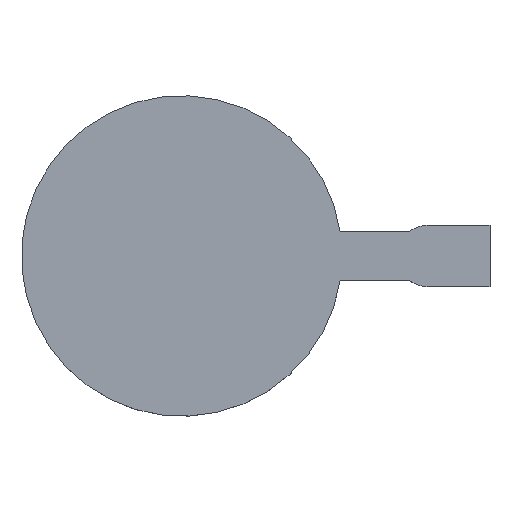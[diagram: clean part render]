
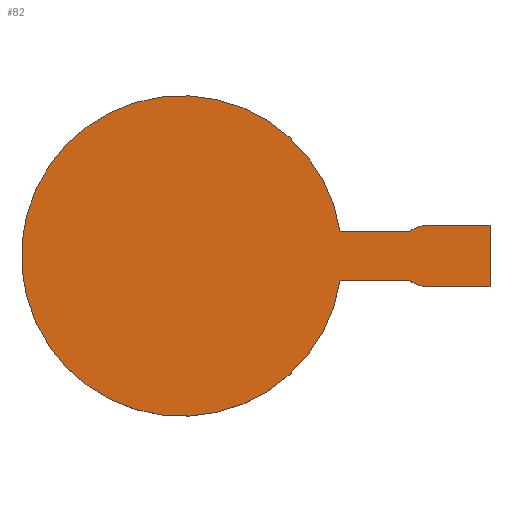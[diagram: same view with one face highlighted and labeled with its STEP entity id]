
A CAD part, top view. The second image highlights one B-rep face of the part: STEP entity #82.
In plain terms, the highlighted planar face has unit normal (0, 0, 1).
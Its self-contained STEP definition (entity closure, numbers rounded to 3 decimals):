
#82 = ADVANCED_FACE( '', ( #172 ), #173, .F. );
#172 = FACE_OUTER_BOUND( '', #267, .T. );
#173 = PLANE( '', #268 );
#267 = EDGE_LOOP( '', ( #433, #434, #435, #436, #437, #438, #439, #440 ) );
#268 = AXIS2_PLACEMENT_3D( '', #441, #442, #443 );
#433 = ORIENTED_EDGE( '', *, *, #537, .F. );
#434 = ORIENTED_EDGE( '', *, *, #554, .T. );
#435 = ORIENTED_EDGE( '', *, *, #532, .T. );
#436 = ORIENTED_EDGE( '', *, *, #516, .T. );
#437 = ORIENTED_EDGE( '', *, *, #549, .T. );
#438 = ORIENTED_EDGE( '', *, *, #567, .T. );
#439 = ORIENTED_EDGE( '', *, *, #572, .T. );
#440 = ORIENTED_EDGE( '', *, *, #528, .T. );
#441 = CARTESIAN_POINT( '', ( -125., 125., 2.5 ) );
#442 = DIRECTION( '', ( 0., 0., -1. ) );
#443 = DIRECTION( '', ( 0., 1., 0. ) );
#516 = EDGE_CURVE( '', #600, #598, #601, .T. );
#528 = EDGE_CURVE( '', #621, #619, #622, .T. );
#532 = EDGE_CURVE( '', #627, #600, #628, .T. );
#537 = EDGE_CURVE( '', #633, #619, #635, .T. );
#549 = EDGE_CURVE( '', #598, #650, #652, .T. );
#554 = EDGE_CURVE( '', #633, #627, #659, .T. );
#567 = EDGE_CURVE( '', #650, #677, #679, .T. );
#572 = EDGE_CURVE( '', #677, #621, #685, .T. );
#598 = VERTEX_POINT( '', #718 );
#600 = VERTEX_POINT( '', #721 );
#601 = LINE( '', #722, #723 );
#619 = VERTEX_POINT( '', #747 );
#621 = VERTEX_POINT( '', #750 );
#622 = LINE( '', #751, #752 );
#627 = VERTEX_POINT( '', #758 );
#628 = CIRCLE( '', #759, 12.5 );
#633 = VERTEX_POINT( '', #766 );
#635 = LINE( '', #769, #770 );
#650 = VERTEX_POINT( '', #787 );
#652 = CIRCLE( '', #790, 65. );
#659 = LINE( '', #797, #798 );
#677 = VERTEX_POINT( '', #821 );
#679 = LINE( '', #824, #825 );
#685 = CIRCLE( '', #831, 12.5 );
#718 = CARTESIAN_POINT( '', ( 64.226, 10., 2.5 ) );
#721 = CARTESIAN_POINT( '', ( 92.5, 10., 2.5 ) );
#722 = CARTESIAN_POINT( '', ( 100., 10., 2.5 ) );
#723 = VECTOR( '', #855, 1000. );
#747 = CARTESIAN_POINT( '', ( 125., -12.5, 2.5 ) );
#750 = CARTESIAN_POINT( '', ( 100., -12.5, 2.5 ) );
#751 = CARTESIAN_POINT( '', ( 100., -12.5, 2.5 ) );
#752 = VECTOR( '', #869, 1000. );
#758 = CARTESIAN_POINT( '', ( 100., 12.5, 2.5 ) );
#759 = AXIS2_PLACEMENT_3D( '', #874, #875, #876 );
#766 = CARTESIAN_POINT( '', ( 125., 12.5, 2.5 ) );
#769 = CARTESIAN_POINT( '', ( 125., 125., 2.5 ) );
#770 = VECTOR( '', #880, 1000. );
#787 = CARTESIAN_POINT( '', ( 64.226, -10., 2.5 ) );
#790 = AXIS2_PLACEMENT_3D( '', #896, #897, #898 );
#797 = CARTESIAN_POINT( '', ( 148.185, 12.5, 2.5 ) );
#798 = VECTOR( '', #905, 1000. );
#821 = CARTESIAN_POINT( '', ( 92.5, -10., 2.5 ) );
#824 = CARTESIAN_POINT( '', ( 0., -10., 2.5 ) );
#825 = VECTOR( '', #921, 1000. );
#831 = AXIS2_PLACEMENT_3D( '', #925, #926, #927 );
#855 = DIRECTION( '', ( -1., 0., 0. ) );
#869 = DIRECTION( '', ( 1., 0., 0. ) );
#874 = CARTESIAN_POINT( '', ( 100., 0., 2.5 ) );
#875 = DIRECTION( '', ( 0., 0., 1. ) );
#876 = DIRECTION( '', ( 0., 1., 0. ) );
#880 = DIRECTION( '', ( 0., -1., 0. ) );
#896 = CARTESIAN_POINT( '', ( 0., 0., 2.5 ) );
#897 = DIRECTION( '', ( 0., 0., 1. ) );
#898 = DIRECTION( '', ( 1., 0., 0. ) );
#905 = DIRECTION( '', ( -1., 0., 0. ) );
#921 = DIRECTION( '', ( 1., 0., 0. ) );
#925 = CARTESIAN_POINT( '', ( 100., 0., 2.5 ) );
#926 = DIRECTION( '', ( 0., 0., 1. ) );
#927 = DIRECTION( '', ( 0., 1., 0. ) );
